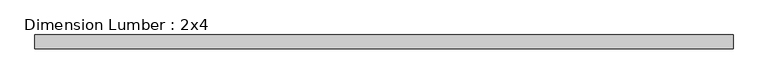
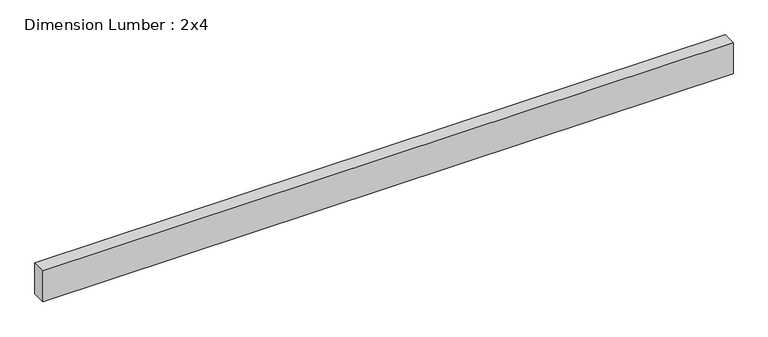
"""IFC4 building model written with IfcOpenShell, lengths in millimetres: beam geometry, Dimension Lumber : 2x4."""

from ifc_helpers import new_model, si_unit, frame, origin, place, context, project, spatial, polyline, outline, extrude, source, transform, mapped, element, save


def dimension_lumber_2x4_4866fcc9(model_context):
    return source(origin(), model_context, "Body", "SweptSolid", [
        extrude(outline(polyline([(944.9035551, 19.05), (944.9035551, -19.05), (-944.9035551, -19.05), (-944.9035551, 19.05), (944.9035551, 19.05)])), frame((0.0, 0.0, -44.45), z_axis=(0.0, 0.0, 1.0), x_axis=(1.0, 0.0, 0.0)), (0.0, 0.0, 1.0), 88.9),
    ])


if __name__ == "__main__":
    model = new_model("IFC4")
    model_context = context("Model", 3, world=origin())
    ifc_project = project(units=[si_unit("LENGTHUNIT", "METRE", prefix="MILLI")], contexts=[model_context])
    site = spatial("IfcSite", under=ifc_project)
    building = spatial("IfcBuilding", under=site)
    placement = place(None, origin())
    dimension_lumber_2x4_shape = dimension_lumber_2x4_4866fcc9(model_context)
    element("IfcBeam", 1, ObjectType="Dimension Lumber : 2x4", at=placement, inside=building, context=model_context, shape_type="MappedRepresentation", body=[
        mapped(dimension_lumber_2x4_shape, transform((0.0, 0.0, 0.0), x_axis=(1.0, 0.0, 0.0), y_axis=(0.0, 1.0, 0.0), z_axis=(0.0, 0.0, 1.0))),
    ])
    save(model, "model.ifc")
